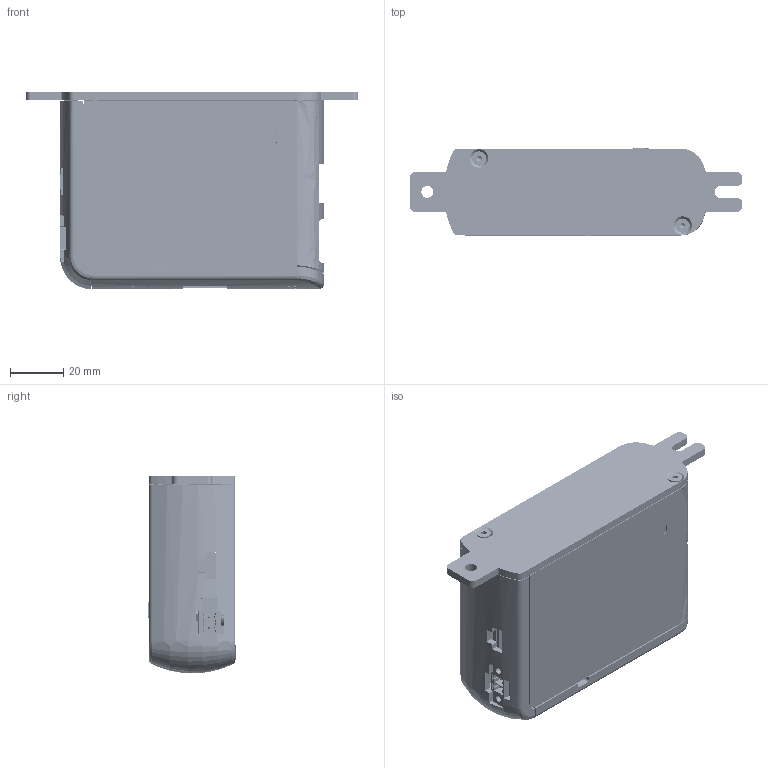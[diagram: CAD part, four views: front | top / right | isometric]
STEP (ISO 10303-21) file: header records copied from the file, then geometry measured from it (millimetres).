
FILE_DESCRIPTION (( 'STEP AP214' ), '1' );
FILE_NAME ('softMC 3_Book mount.STEP', '2016-04-21T11:36:27', ( 'Alex.Naivelt' ), ( 'Servotronix' ), 'SwSTEP 2.0', 'SolidWorks 2009', '' );
FILE_SCHEMA (( 'AUTOMOTIVE_DESIGN' ));
Length unit declared in the file: millimetre
Products named in the file (1): softMC 3_Book mount
Bounding box: 125 x 32.85 x 75.28 mm (x, y, z)
Volume: 95408.6 mm3; surface area: 102575.3 mm2
Topology: 65 solids, 66 shells, 9964 faces, 27393 edges, 17831 vertices
Faces by surface type: plane 7386, cylinder 1634, bspline 746, cone 152, torus 28, sphere 18
Entity records: 489892 total; most frequent: CARTESIAN_POINT 130626, ORIENTED_EDGE 54706, DIRECTION 46371, EDGE_CURVE 27353, VECTOR 21515, LINE 21515, VERTEX_POINT 17829, AXIS2_PLACEMENT_3D 12428
